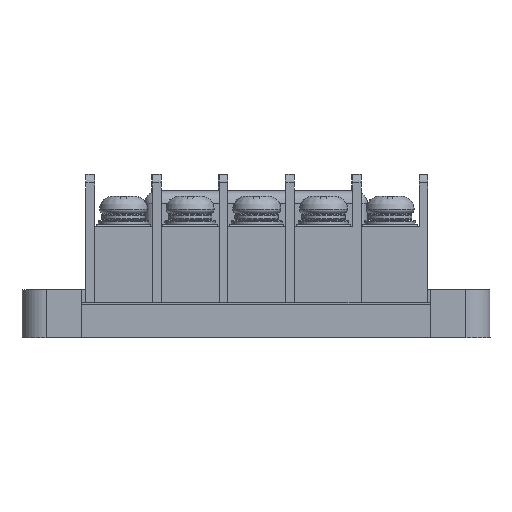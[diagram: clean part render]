
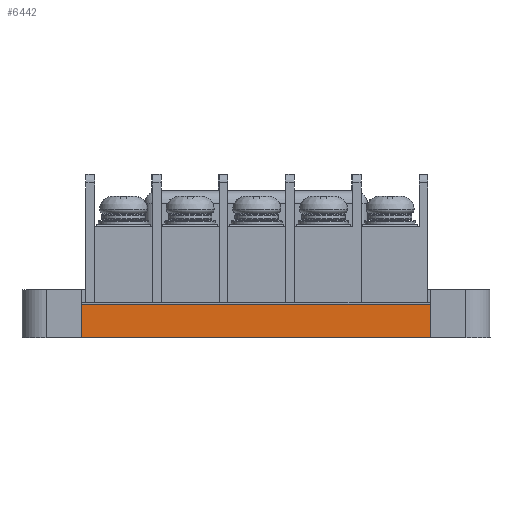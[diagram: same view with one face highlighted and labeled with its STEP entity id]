
A CAD part, left-side view. The second image highlights one B-rep face of the part: STEP entity #6442.
In plain terms, the highlighted planar face has unit normal (-1, 0, 0) as drawn and (0, 1, 0) by its records, which use the part's own axes.
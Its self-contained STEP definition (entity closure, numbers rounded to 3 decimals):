
#626=PLANE($,#6912);
#920=FACE_OUTER_BOUND($,#1328,.T.);
#1328=EDGE_LOOP($,(#5445,#5446,#5447,#5448));
#1958=LINE($,#10001,#2640);
#2004=LINE($,#10181,#2686);
#2006=LINE($,#10185,#2688);
#2007=LINE($,#10186,#2689);
#2640=VECTOR($,#8077,40.);
#2686=VECTOR($,#8271,3.8);
#2688=VECTOR($,#8275,3.8);
#2689=VECTOR($,#8276,40.);
#3223=VERTEX_POINT($,#9998);
#3224=VERTEX_POINT($,#10000);
#3284=VERTEX_POINT($,#10180);
#3285=VERTEX_POINT($,#10184);
#3977=EDGE_CURVE($,#3224,#3223,#1958,.T.);
#4059=EDGE_CURVE($,#3284,#3224,#2004,.T.);
#4061=EDGE_CURVE($,#3285,#3223,#2006,.T.);
#4062=EDGE_CURVE($,#3285,#3284,#2007,.T.);
#5445=ORIENTED_EDGE($,*,*,#4061,.F.);
#5446=ORIENTED_EDGE($,*,*,#4062,.T.);
#5447=ORIENTED_EDGE($,*,*,#4059,.T.);
#5448=ORIENTED_EDGE($,*,*,#3977,.T.);
#6442=ADVANCED_FACE($,(#920),#626,.T.);
#6912=AXIS2_PLACEMENT_3D($,#10183,#8273,#8274);
#8077=DIRECTION($,(1.,0.,0.));
#8271=DIRECTION($,(0.,0.,1.));
#8273=DIRECTION('center_axis',(0.,1.,0.));
#8274=DIRECTION('ref_axis',(0.,0.,1.));
#8275=DIRECTION($,(0.,0.,1.));
#8276=DIRECTION($,(-1.,0.,0.));
#9998=CARTESIAN_POINT('',(46.2,95.939,3.8));
#10000=CARTESIAN_POINT('',(6.2,95.939,3.8));
#10001=CARTESIAN_POINT($,(46.2,95.939,3.8));
#10180=CARTESIAN_POINT('',(6.2,95.939,0.));
#10181=CARTESIAN_POINT($,(6.2,95.939,0.));
#10183=CARTESIAN_POINT('Origin',(45.6,95.939,0.));
#10184=CARTESIAN_POINT('',(46.2,95.939,0.));
#10185=CARTESIAN_POINT($,(46.2,95.939,0.));
#10186=CARTESIAN_POINT($,(46.2,95.939,0.));
